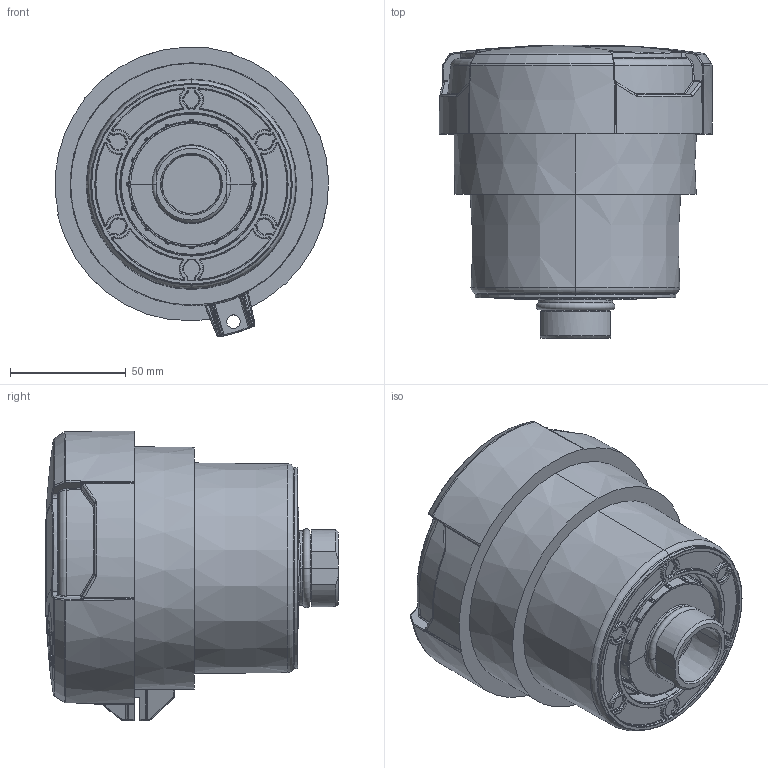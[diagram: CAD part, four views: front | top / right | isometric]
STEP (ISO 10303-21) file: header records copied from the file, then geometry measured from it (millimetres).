
FILE_DESCRIPTION((''),'2;1');
FILE_NAME('1000417919','2023-07-17T',('v.pichlmaier'),(''),'PRO/ENGINEER BY PARAMETRIC TECHNOLOGY CORPORATION, 2015110','PRO/ENGINEER BY PARAMETRIC TECHNOLOGY CORPORATION, 2015110','');
FILE_SCHEMA(('AUTOMOTIVE_DESIGN { 1 0 10303 214 1 1 1 1 }'));
Length unit declared in the file: millimetre
Products named in the file (1): 1000417919
Bounding box: 117.86 x 126.37 x 125.01 mm (x, y, z)
Volume: 888084.9 mm3; surface area: 64631.3 mm2
Topology: 1 solids, 2 shells, 1632 faces, 3838 edges, 2237 vertices
Faces by surface type: bspline 800, torus 223, plane 216, cylinder 165, cone 162, sphere 66
Entity records: 96489 total; most frequent: CARTESIAN_POINT 52972, ORIENTED_EDGE 7672, DIRECTION 5240, PRESENTATION_STYLE_ASSIGNMENT 3837, STYLED_ITEM 3837, CURVE_STYLE 3836, EDGE_CURVE 3836, AXIS2_PLACEMENT_3D 2275
